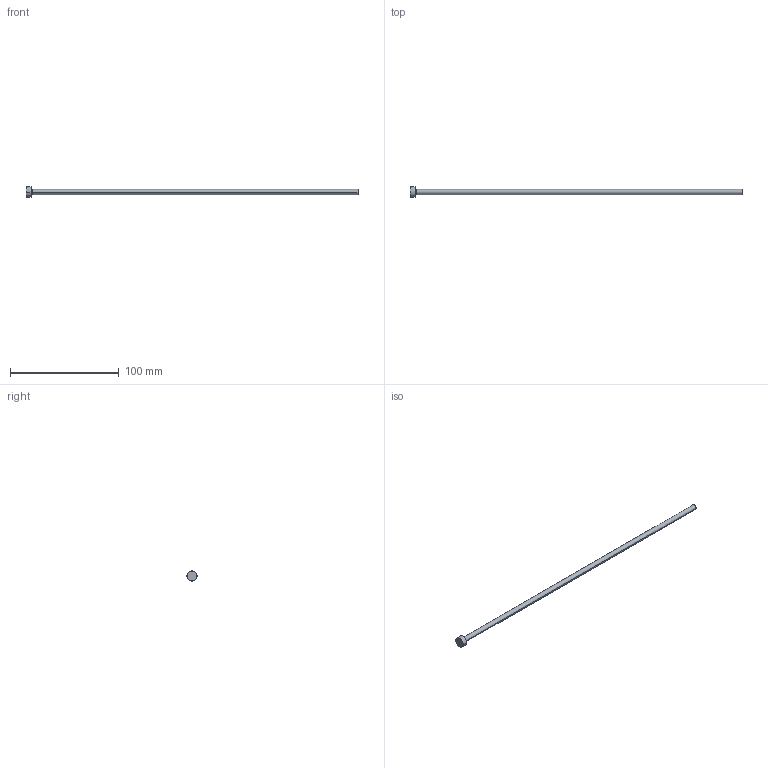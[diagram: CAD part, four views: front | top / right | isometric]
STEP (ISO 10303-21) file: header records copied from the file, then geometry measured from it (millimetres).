
FILE_DESCRIPTION (( 'STEP AP214' ), '1' );
FILE_NAME ('P13-12.STEP', '2020-03-11T18:19:47', ( '' ), ( '' ), 'SwSTEP 2.0', 'SolidWorks 2018', '' );
FILE_SCHEMA (( 'AUTOMOTIVE_DESIGN' ));
Length unit declared in the file: inch
Products named in the file (1): P13-12
Bounding box: 304.8 x 9.53 x 9.53 mm (x, y, z)
Volume: 5668.8 mm3; surface area: 4758.7 mm2
Topology: 1 solids, 1 shells, 13 faces, 24 edges, 14 vertices
Faces by surface type: cone 4, cylinder 4, plane 3, torus 2
Entity records: 366 total; most frequent: DIRECTION 68, CARTESIAN_POINT 52, ORIENTED_EDGE 48, AXIS2_PLACEMENT_3D 30, EDGE_CURVE 24, CIRCLE 16, EDGE_LOOP 14, VERTEX_POINT 14
